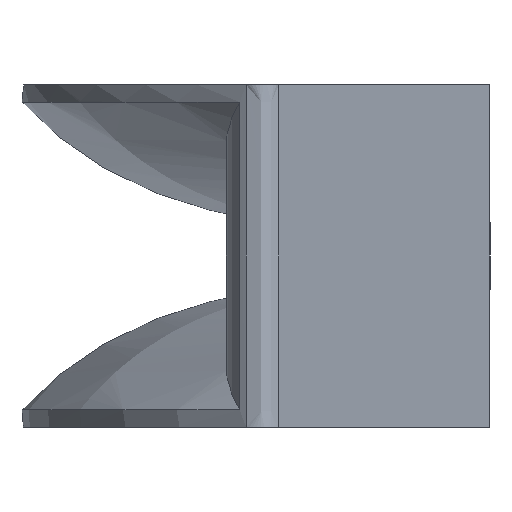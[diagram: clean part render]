
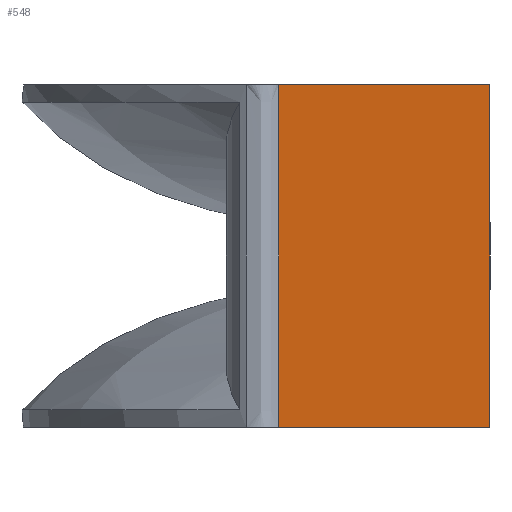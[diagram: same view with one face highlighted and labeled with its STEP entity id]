
A CAD part, left-side view. The second image highlights one B-rep face of the part: STEP entity #548.
In plain terms, the highlighted planar face has unit normal (-0.544, -0.839, 0).
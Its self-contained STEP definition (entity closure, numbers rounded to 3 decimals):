
#21=PLANE('',#576);
#52=LINE('',#18920,#76);
#58=LINE('',#19315,#82);
#63=LINE('',#25387,#87);
#76=VECTOR('',#601,10.);
#82=VECTOR('',#611,10.);
#87=VECTOR('',#618,10.);
#125=FACE_OUTER_BOUND('',#165,.T.);
#165=EDGE_LOOP('',(#478,#479,#480,#481));
#191=B_SPLINE_CURVE_WITH_KNOTS('',3,(#16289,#16290,#16291,#16292,#16293,
#16294,#16295,#16296,#16297,#16298,#16299,#16300,#16301,#16302,#16303,#16304,
#16305,#16306,#16307,#16308,#16309,#16310,#16311,#16312,#16313),
 .UNSPECIFIED.,.F.,.F.,(4,2,2,2,2,1,1,1,1,2,1,2,2,2,4),(0.,
1.208,1.301,4.157,7.105,10.053,
13.,14.474,15.948,18.895,21.843,
23.318,24.699,24.792,26.),
 .UNSPECIFIED.);
#232=VERTEX_POINT('',#16078);
#235=VERTEX_POINT('',#16197);
#244=VERTEX_POINT('',#18919);
#249=VERTEX_POINT('',#19313);
#295=EDGE_CURVE('',#235,#232,#191,.T.);
#305=EDGE_CURVE('',#244,#232,#52,.T.);
#314=EDGE_CURVE('',#235,#249,#58,.T.);
#333=EDGE_CURVE('',#249,#244,#63,.T.);
#478=ORIENTED_EDGE('',*,*,#295,.F.);
#479=ORIENTED_EDGE('',*,*,#314,.T.);
#480=ORIENTED_EDGE('',*,*,#333,.T.);
#481=ORIENTED_EDGE('',*,*,#305,.T.);
#548=ADVANCED_FACE('',(#125),#21,.F.);
#576=AXIS2_PLACEMENT_3D('',#25388,#619,#620);
#601=DIRECTION('',(-0.839,0.544,0.));
#611=DIRECTION('',(0.839,-0.544,0.));
#618=DIRECTION('',(0.,0.,1.));
#619=DIRECTION('center_axis',(0.544,0.839,0.));
#620=DIRECTION('ref_axis',(-0.839,0.544,0.));
#16078=CARTESIAN_POINT('',(-315.463,160.585,130.));
#16197=CARTESIAN_POINT('',(-315.463,160.585,-130.));
#16289=CARTESIAN_POINT('Ctrl Pts',(-315.463,160.585,-130.));
#16290=CARTESIAN_POINT('Ctrl Pts',(-315.463,160.585,-125.974));
#16291=CARTESIAN_POINT('Ctrl Pts',(-315.462,160.585,-121.948));
#16292=CARTESIAN_POINT('Ctrl Pts',(-315.462,160.585,-117.611));
#16293=CARTESIAN_POINT('Ctrl Pts',(-315.462,160.585,-117.3));
#16294=CARTESIAN_POINT('Ctrl Pts',(-315.459,160.583,-107.468));
#16295=CARTESIAN_POINT('Ctrl Pts',(-315.46,160.584,-97.947));
#16296=CARTESIAN_POINT('Ctrl Pts',(-315.475,160.593,-78.601));
#16297=CARTESIAN_POINT('Ctrl Pts',(-315.48,160.597,-68.776));
#16298=CARTESIAN_POINT('Ctrl Pts',(-315.489,160.603,-49.126));
#16299=CARTESIAN_POINT('Ctrl Pts',(-315.496,160.607,-29.475));
#16300=CARTESIAN_POINT('Ctrl Pts',(-315.499,160.609,-4.913));
#16301=CARTESIAN_POINT('Ctrl Pts',(-315.498,160.608,14.738));
#16302=CARTESIAN_POINT('Ctrl Pts',(-315.494,160.606,34.388));
#16303=CARTESIAN_POINT('Ctrl Pts',(-315.489,160.603,49.126));
#16304=CARTESIAN_POINT('Ctrl Pts',(-315.48,160.596,68.776));
#16305=CARTESIAN_POINT('Ctrl Pts',(-315.473,160.592,83.518));
#16306=CARTESIAN_POINT('Ctrl Pts',(-315.46,160.583,98.259));
#16307=CARTESIAN_POINT('Ctrl Pts',(-315.457,160.582,107.78));
#16308=CARTESIAN_POINT('Ctrl Pts',(-315.461,160.584,112.385));
#16309=CARTESIAN_POINT('Ctrl Pts',(-315.462,160.585,117.3));
#16310=CARTESIAN_POINT('Ctrl Pts',(-315.462,160.585,117.611));
#16311=CARTESIAN_POINT('Ctrl Pts',(-315.462,160.585,121.948));
#16312=CARTESIAN_POINT('Ctrl Pts',(-315.463,160.585,125.974));
#16313=CARTESIAN_POINT('Ctrl Pts',(-315.463,160.585,130.));
#18919=CARTESIAN_POINT('',(-67.5,0.,130.));
#18920=CARTESIAN_POINT('',(-43.723,-15.399,130.));
#19313=CARTESIAN_POINT('',(-67.5,0.,-130.));
#19315=CARTESIAN_POINT('',(-43.723,-15.399,-130.));
#25387=CARTESIAN_POINT('',(-67.5,0.,0.));
#25388=CARTESIAN_POINT('Origin',(-67.5,0.,0.));
